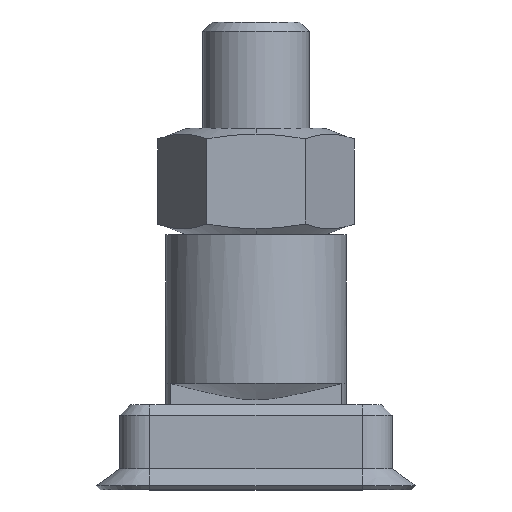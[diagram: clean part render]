
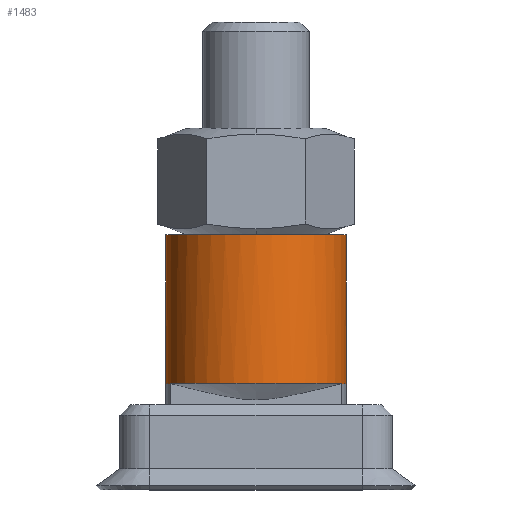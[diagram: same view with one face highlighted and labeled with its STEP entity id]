
A CAD part, top view. The second image highlights one B-rep face of the part: STEP entity #1483.
In plain terms, the highlighted cylindrical face has radius 4.25 mm (diameter 8.5 mm), a partial arc.
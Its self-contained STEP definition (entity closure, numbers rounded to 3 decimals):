
#156=CARTESIAN_POINT('',(0.,4.,0.));
#157=DIRECTION('',(0.,-1.,0.));
#158=DIRECTION('',(-0.944,0.,0.329));
#159=AXIS2_PLACEMENT_3D('',#156,#157,#158);
#197=CARTESIAN_POINT('',(0.,4.,0.));
#198=DIRECTION('',(0.,-1.,0.));
#199=DIRECTION('',(1.,0.,0.));
#200=AXIS2_PLACEMENT_3D('',#197,#198,#199);
#217=CARTESIAN_POINT('',(0.,11.,0.));
#218=DIRECTION('',(0.,-1.,0.));
#219=DIRECTION('',(1.,0.,0.));
#220=AXIS2_PLACEMENT_3D('',#217,#218,#219);
#584=DIRECTION('',(0.,-1.,0.));
#585=VECTOR('',#584,7.);
#586=CARTESIAN_POINT('',(4.25,11.,0.));
#587=LINE('1655',#586,#585);
#588=DIRECTION('',(0.,1.,0.));
#589=VECTOR('',#588,7.);
#590=CARTESIAN_POINT('',(-4.25,4.,0.));
#591=LINE('1654',#590,#589);
#592=CARTESIAN_POINT('',(0.,4.,0.));
#593=DIRECTION('',(0.,1.,0.));
#594=DIRECTION('',(-0.944,0.,0.329));
#595=AXIS2_PLACEMENT_3D('',#592,#593,#594);
#786=CARTESIAN_POINT('',(4.25,4.,0.));
#787=CARTESIAN_POINT('',(4.013,4.,1.4));
#788=VERTEX_POINT('',#786);
#789=VERTEX_POINT('',#787);
#790=CARTESIAN_POINT('',(-4.013,4.,1.4));
#791=CARTESIAN_POINT('',(-4.25,4.,0.));
#792=VERTEX_POINT('',#790);
#793=VERTEX_POINT('',#791);
#850=CARTESIAN_POINT('',(-4.25,11.,0.));
#851=VERTEX_POINT('',#850);
#852=CARTESIAN_POINT('',(4.25,11.,0.));
#853=VERTEX_POINT('',#852);
#1469=CARTESIAN_POINT('',(0.,7.207,0.));
#1470=DIRECTION('',(0.,-1.,0.));
#1471=DIRECTION('',(-1.,0.,0.));
#1472=AXIS2_PLACEMENT_3D('',#1469,#1470,#1471);
#1473=CYLINDRICAL_SURFACE('903',#1472,4.25);
#1474=ORIENTED_EDGE('4468',*,*,#1136,.F.);
#1475=ORIENTED_EDGE('1655',*,*,#1125,.T.);
#1476=ORIENTED_EDGE('925',*,*,#1123,.T.);
#1478=ORIENTED_EDGE('935',*,*,#1477,.F.);
#1479=ORIENTED_EDGE('927',*,*,#1101,.T.);
#1480=ORIENTED_EDGE('1654',*,*,#1099,.T.);
#1481=EDGE_LOOP('903',(#1474,#1475,#1476,#1478,#1479,#1480));
#1482=FACE_OUTER_BOUND('903',#1481,.F.);
#1483=ADVANCED_FACE('903',(#1482),#1473,.T.);
#160=CIRCLE('927',#159,4.25);
#201=CIRCLE('925',#200,4.25);
#221=CIRCLE('4468',#220,4.25);
#596=CIRCLE('935',#595,4.25);
#1099=EDGE_CURVE('1654',#793,#851,#591,.T.);
#1101=EDGE_CURVE('927',#792,#793,#160,.T.);
#1123=EDGE_CURVE('925',#788,#789,#201,.T.);
#1125=EDGE_CURVE('1655',#853,#788,#587,.T.);
#1136=EDGE_CURVE('4468',#853,#851,#221,.T.);
#1477=EDGE_CURVE('935',#792,#789,#596,.T.);
